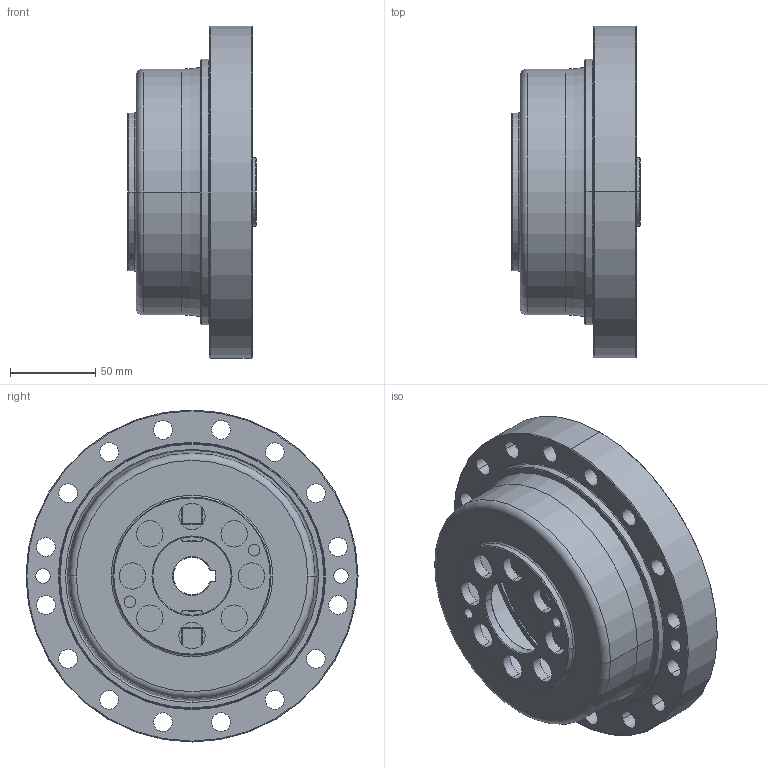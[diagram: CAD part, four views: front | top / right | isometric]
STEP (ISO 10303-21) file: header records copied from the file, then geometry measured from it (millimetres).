
FILE_DESCRIPTION (( 'STEP AP203' ), '1' );
FILE_NAME ('FCG-58-XXX-CO.STEP', '2023-02-22T09:04:17', ( '微软用户' ), ( '微软中国' ), 'SwSTEP 2.0', 'SolidWorks 2016', '' );
FILE_SCHEMA (( 'CONFIG_CONTROL_DESIGN' ));
Length unit declared in the file: millimetre
Products named in the file (1): FCG-58-XXX-CO
Bounding box: 75.5 x 195 x 195 mm (x, y, z)
Volume: 730917.2 mm3; surface area: 307373.9 mm2
Topology: 35 solids, 35 shells, 564 faces, 1502 edges, 968 vertices
Faces by surface type: cylinder 229, plane 171, cone 86, sphere 46, torus 26, bspline 6
Entity records: 20610 total; most frequent: CARTESIAN_POINT 6616, DIRECTION 3142, ORIENTED_EDGE 2774, EDGE_CURVE 1387, AXIS2_PLACEMENT_3D 1303, VERTEX_POINT 899, CIRCLE 744, EDGE_LOOP 650
